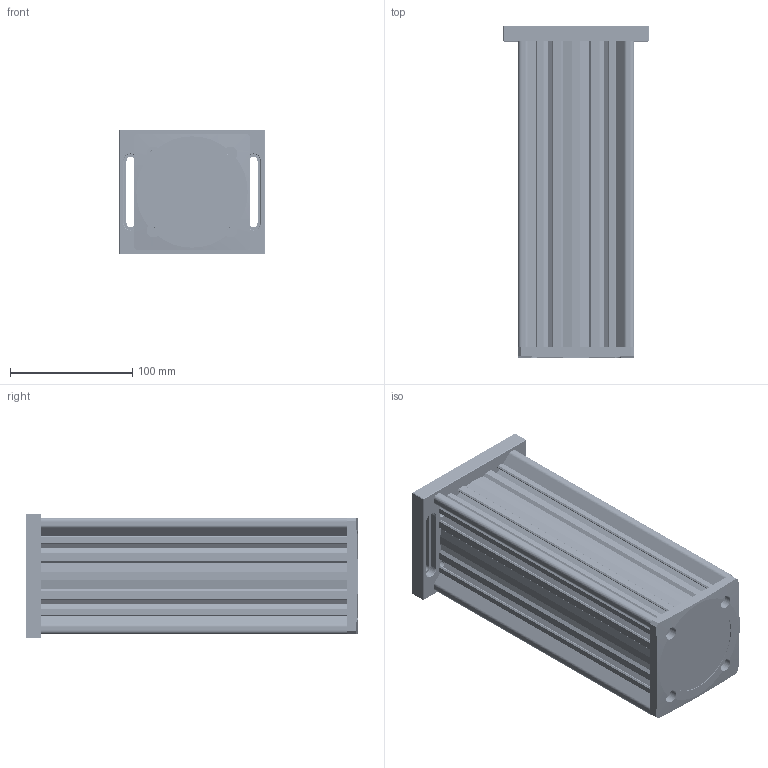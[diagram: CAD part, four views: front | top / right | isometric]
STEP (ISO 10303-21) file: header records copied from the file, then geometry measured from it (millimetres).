
FILE_DESCRIPTION((''),'2;1');
FILE_NAME('OPH95-250V_ASM','2023-07-24T09:55:57',('R&D'),(''),'CREO PARAMETRIC BY PTC INC, 2021063','CREO PARAMETRIC BY PTC INC, 2021063','');
FILE_SCHEMA(('CONFIG_CONTROL_DESIGN'));
Products named in the file (4): OPH95-250; OPS95-MO; OPH95-ML; OPH95-250V_ASM
Assembly tree (3 placements, depth 2):
  OPH95-250V_ASM
    OPH95-250
    OPS95-MO
    OPH95-ML
Bounding box: 119 x 271 x 101.5 mm (x, y, z)
Volume: 806728.8 mm3; surface area: 335312.2 mm2
Topology: 3 solids, 36 shells, 2198 faces, 6128 edges, 3976 vertices
Faces by surface type: cylinder 1234, bspline 540, plane 330, cone 94
Entity records: 194753 total; most frequent: CARTESIAN_POINT 145349, ORIENTED_EDGE 12124, DIRECTION 7076, EDGE_CURVE 6128, VERTEX_POINT 3976, B_SPLINE_CURVE_WITH_KNOTS 2980, VECTOR 2558, LINE 2558
